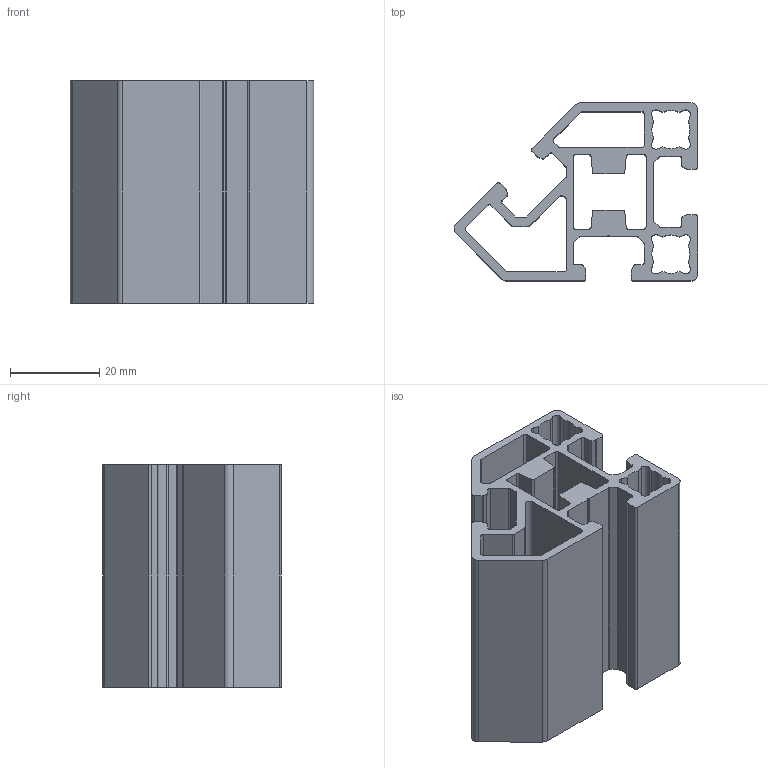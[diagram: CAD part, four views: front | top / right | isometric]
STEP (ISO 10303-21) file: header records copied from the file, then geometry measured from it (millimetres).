
FILE_DESCRIPTION(('STEP AP214'),'1');
FILE_NAME('F40A-.stp','2017-07-14T07:41:29',(' '),(' '),'Spatial InterOp 3D',' ',' ');
FILE_SCHEMA(('automotive_design'));
Length unit declared in the file: millimetre
Products named in the file (1): F40A-
Bounding box: 54.66 x 40 x 50 mm (x, y, z)
Volume: 29483 mm3; surface area: 27318.6 mm2
Topology: 1 solids, 1 shells, 170 faces, 504 edges, 336 vertices
Faces by surface type: plane 86, cylinder 84
Entity records: 7132 total; most frequent: DIRECTION 1014, CARTESIAN_POINT 1011, ORIENTED_EDGE 1008, EDGE_CURVE 504, AXIS2_PLACEMENT_3D 339, VERTEX_POINT 336, LINE 336, VECTOR 336
